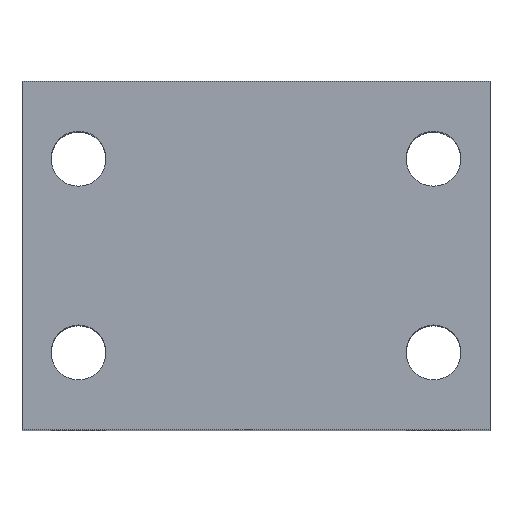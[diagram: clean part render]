
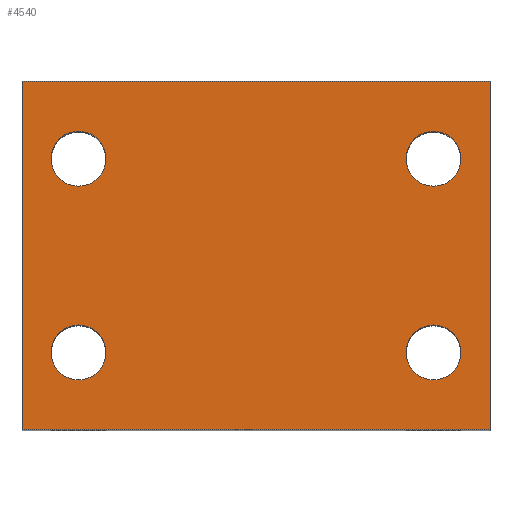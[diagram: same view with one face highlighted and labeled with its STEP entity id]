
A CAD part, top view. The second image highlights one B-rep face of the part: STEP entity #4540.
In plain terms, the highlighted planar face has unit normal (0, 0, 1).
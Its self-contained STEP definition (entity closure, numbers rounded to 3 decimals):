
#148 = ORIENTED_EDGE ( 'NONE', *, *, #15416, .T. ) ;
#172 = DIRECTION ( 'NONE',  ( 1., 0., 0. ) ) ;
#316 = CARTESIAN_POINT ( 'NONE',  ( 72.5, 108., 50. ) ) ;
#389 = CARTESIAN_POINT ( 'NONE',  ( 55., 84., 50. ) ) ;
#398 = FACE_BOUND ( 'NONE', #10346, .T. ) ;
#479 = EDGE_CURVE ( 'NONE', #3941, #2619, #590, .T. ) ;
#510 = ORIENTED_EDGE ( 'NONE', *, *, #479, .T. ) ;
#590 = CIRCLE ( 'NONE', #3248, 8.5 ) ;
#724 = VERTEX_POINT ( 'NONE', #4691 ) ;
#793 = LINE ( 'NONE', #2816, #3442 ) ;
#1737 = DIRECTION ( 'NONE',  ( -1., 0., 0. ) ) ;
#1789 = ORIENTED_EDGE ( 'NONE', *, *, #8372, .F. ) ;
#2012 = CARTESIAN_POINT ( 'NONE',  ( -55., 24., 50. ) ) ;
#2558 = VERTEX_POINT ( 'NONE', #5351 ) ;
#2609 = ORIENTED_EDGE ( 'NONE', *, *, #8569, .T. ) ;
#2619 = VERTEX_POINT ( 'NONE', #6725 ) ;
#2706 = CARTESIAN_POINT ( 'NONE',  ( -72.5, 108., 50. ) ) ;
#2816 = CARTESIAN_POINT ( 'NONE',  ( -72.5, 0., 50. ) ) ;
#3031 = ORIENTED_EDGE ( 'NONE', *, *, #8971, .T. ) ;
#3182 = VECTOR ( 'NONE', #9452, 1000. ) ;
#3213 = ORIENTED_EDGE ( 'NONE', *, *, #15896, .T. ) ;
#3248 = AXIS2_PLACEMENT_3D ( 'NONE', #3396, #3399, #3419 ) ;
#3310 = DIRECTION ( 'NONE',  ( -1., 0., 0. ) ) ;
#3384 = DIRECTION ( 'NONE',  ( 0., 0., -1. ) ) ;
#3396 = CARTESIAN_POINT ( 'NONE',  ( 55., 24., 50. ) ) ;
#3399 = DIRECTION ( 'NONE',  ( 0., 0., -1. ) ) ;
#3413 = AXIS2_PLACEMENT_3D ( 'NONE', #389, #9379, #1737 ) ;
#3419 = DIRECTION ( 'NONE',  ( -1., 0., 0. ) ) ;
#3442 = VECTOR ( 'NONE', #172, 1000. ) ;
#3486 = DIRECTION ( 'NONE',  ( 0., -1., 0. ) ) ;
#3941 = VERTEX_POINT ( 'NONE', #4411 ) ;
#4005 = CARTESIAN_POINT ( 'NONE',  ( -63.5, 24., 50. ) ) ;
#4107 = PLANE ( 'NONE',  #14581 ) ;
#4273 = FACE_OUTER_BOUND ( 'NONE', #16411, .T. ) ;
#4299 = AXIS2_PLACEMENT_3D ( 'NONE', #15202, #7669, #16519 ) ;
#4411 = CARTESIAN_POINT ( 'NONE',  ( 63.5, 24., 50. ) ) ;
#4540 = ADVANCED_FACE ( 'NONE', ( #10676, #398, #10263, #6847, #4273 ), #4107, .F. ) ;
#4670 = EDGE_LOOP ( 'NONE', ( #148, #510 ) ) ;
#4691 = CARTESIAN_POINT ( 'NONE',  ( -46.5, 84., 50. ) ) ;
#4844 = EDGE_CURVE ( 'NONE', #10146, #724, #14524, .T. ) ;
#4960 = CARTESIAN_POINT ( 'NONE',  ( 55., 84., 50. ) ) ;
#4987 = CARTESIAN_POINT ( 'NONE',  ( -55., 84., 50. ) ) ;
#5106 = CARTESIAN_POINT ( 'NONE',  ( 72.5, 108., 50. ) ) ;
#5261 = VERTEX_POINT ( 'NONE', #8121 ) ;
#5351 = CARTESIAN_POINT ( 'NONE',  ( 63.5, 84., 50. ) ) ;
#5383 = DIRECTION ( 'NONE',  ( 0., 0., -1. ) ) ;
#5700 = CARTESIAN_POINT ( 'NONE',  ( -63.5, 84., 50. ) ) ;
#6028 = CARTESIAN_POINT ( 'NONE',  ( -72.5, 0., 50. ) ) ;
#6237 = DIRECTION ( 'NONE',  ( -1., 0., 0. ) ) ;
#6261 = DIRECTION ( 'NONE',  ( -1., 0., 0. ) ) ;
#6678 = EDGE_LOOP ( 'NONE', ( #10830, #3213 ) ) ;
#6725 = CARTESIAN_POINT ( 'NONE',  ( 46.5, 24., 50. ) ) ;
#6732 = CIRCLE ( 'NONE', #13683, 8.5 ) ;
#6847 = FACE_BOUND ( 'NONE', #13335, .T. ) ;
#6884 = CARTESIAN_POINT ( 'NONE',  ( -72.5, 108., 50. ) ) ;
#7092 = ORIENTED_EDGE ( 'NONE', *, *, #15669, .T. ) ;
#7383 = AXIS2_PLACEMENT_3D ( 'NONE', #11051, #3384, #12317 ) ;
#7538 = AXIS2_PLACEMENT_3D ( 'NONE', #4987, #13817, #6261 ) ;
#7562 = CARTESIAN_POINT ( 'NONE',  ( -55., 24., 50. ) ) ;
#7572 = VERTEX_POINT ( 'NONE', #316 ) ;
#7669 = DIRECTION ( 'NONE',  ( 0., 0., -1. ) ) ;
#7961 = VECTOR ( 'NONE', #15837, 1000. ) ;
#8121 = CARTESIAN_POINT ( 'NONE',  ( 46.5, 84., 50. ) ) ;
#8372 = EDGE_CURVE ( 'NONE', #9103, #7572, #11404, .T. ) ;
#8569 = EDGE_CURVE ( 'NONE', #5261, #2558, #10176, .T. ) ;
#8714 = LINE ( 'NONE', #5106, #12150 ) ;
#8835 = DIRECTION ( 'NONE',  ( -1., 0., 0. ) ) ;
#8971 = EDGE_CURVE ( 'NONE', #9103, #12413, #9958, .T. ) ;
#9103 = VERTEX_POINT ( 'NONE', #11103 ) ;
#9379 = DIRECTION ( 'NONE',  ( 0., 0., -1. ) ) ;
#9452 = DIRECTION ( 'NONE',  ( 0., -1., 0. ) ) ;
#9958 = LINE ( 'NONE', #6884, #3182 ) ;
#9969 = CARTESIAN_POINT ( 'NONE',  ( 72.5, 0., 50. ) ) ;
#10146 = VERTEX_POINT ( 'NONE', #5700 ) ;
#10176 = CIRCLE ( 'NONE', #12967, 8.5 ) ;
#10192 = EDGE_CURVE ( 'NONE', #15471, #16245, #6732, .T. ) ;
#10263 = FACE_BOUND ( 'NONE', #4670, .T. ) ;
#10346 = EDGE_LOOP ( 'NONE', ( #14984, #7092 ) ) ;
#10426 = CIRCLE ( 'NONE', #7383, 8.5 ) ;
#10644 = CARTESIAN_POINT ( 'NONE',  ( -46.5, 24., 50. ) ) ;
#10676 = FACE_BOUND ( 'NONE', #6678, .T. ) ;
#10830 = ORIENTED_EDGE ( 'NONE', *, *, #4844, .T. ) ;
#10978 = DIRECTION ( 'NONE',  ( 0., 0., -1. ) ) ;
#11051 = CARTESIAN_POINT ( 'NONE',  ( -55., 84., 50. ) ) ;
#11103 = CARTESIAN_POINT ( 'NONE',  ( -72.5, 108., 50. ) ) ;
#11158 = AXIS2_PLACEMENT_3D ( 'NONE', #7562, #16406, #8835 ) ;
#11379 = CIRCLE ( 'NONE', #3413, 8.5 ) ;
#11404 = LINE ( 'NONE', #14546, #7961 ) ;
#11414 = EDGE_CURVE ( 'NONE', #2558, #5261, #11379, .T. ) ;
#12150 = VECTOR ( 'NONE', #3486, 1000. ) ;
#12156 = EDGE_CURVE ( 'NONE', #7572, #14164, #8714, .T. ) ;
#12317 = DIRECTION ( 'NONE',  ( -1., 0., 0. ) ) ;
#12413 = VERTEX_POINT ( 'NONE', #6028 ) ;
#12452 = ORIENTED_EDGE ( 'NONE', *, *, #12156, .F. ) ;
#12967 = AXIS2_PLACEMENT_3D ( 'NONE', #4960, #13791, #6237 ) ;
#13335 = EDGE_LOOP ( 'NONE', ( #2609, #16040 ) ) ;
#13683 = AXIS2_PLACEMENT_3D ( 'NONE', #2012, #10978, #3310 ) ;
#13791 = DIRECTION ( 'NONE',  ( 0., 0., -1. ) ) ;
#13817 = DIRECTION ( 'NONE',  ( 0., 0., -1. ) ) ;
#14164 = VERTEX_POINT ( 'NONE', #9969 ) ;
#14202 = DIRECTION ( 'NONE',  ( -1., 0., 0. ) ) ;
#14524 = CIRCLE ( 'NONE', #7538, 8.5 ) ;
#14546 = CARTESIAN_POINT ( 'NONE',  ( -72.5, 108., 50. ) ) ;
#14581 = AXIS2_PLACEMENT_3D ( 'NONE', #2706, #5383, #14202 ) ;
#14701 = CIRCLE ( 'NONE', #4299, 8.5 ) ;
#14984 = ORIENTED_EDGE ( 'NONE', *, *, #10192, .T. ) ;
#15202 = CARTESIAN_POINT ( 'NONE',  ( 55., 24., 50. ) ) ;
#15416 = EDGE_CURVE ( 'NONE', #2619, #3941, #14701, .T. ) ;
#15471 = VERTEX_POINT ( 'NONE', #4005 ) ;
#15541 = EDGE_CURVE ( 'NONE', #12413, #14164, #793, .T. ) ;
#15669 = EDGE_CURVE ( 'NONE', #16245, #15471, #15697, .T. ) ;
#15697 = CIRCLE ( 'NONE', #11158, 8.5 ) ;
#15837 = DIRECTION ( 'NONE',  ( 1., 0., 0. ) ) ;
#15896 = EDGE_CURVE ( 'NONE', #724, #10146, #10426, .T. ) ;
#16040 = ORIENTED_EDGE ( 'NONE', *, *, #11414, .T. ) ;
#16245 = VERTEX_POINT ( 'NONE', #10644 ) ;
#16381 = ORIENTED_EDGE ( 'NONE', *, *, #15541, .T. ) ;
#16406 = DIRECTION ( 'NONE',  ( 0., 0., -1. ) ) ;
#16411 = EDGE_LOOP ( 'NONE', ( #16381, #12452, #1789, #3031 ) ) ;
#16519 = DIRECTION ( 'NONE',  ( -1., 0., 0. ) ) ;
